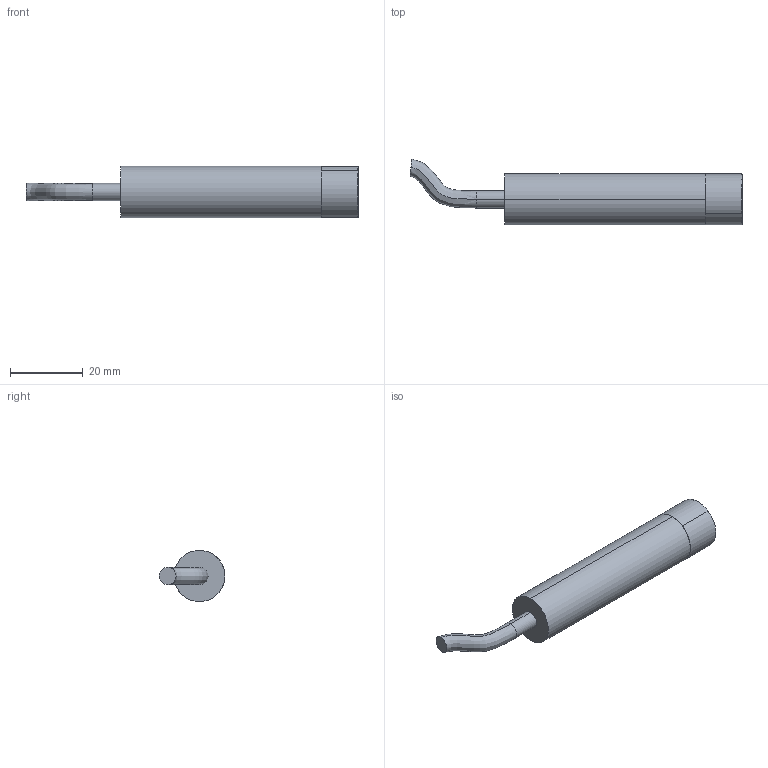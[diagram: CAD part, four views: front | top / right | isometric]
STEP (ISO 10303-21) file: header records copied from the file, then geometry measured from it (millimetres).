
FILE_DESCRIPTION (( 'STEP AP203' ), '1' );
FILE_NAME ('SENSORE LASER LT1M-XG-CG-LA-B-C.STEP', '2021-06-09T11:15:18', ( '' ), ( '' ), 'SwSTEP 2.0', 'SolidWorks 2019', '' );
FILE_SCHEMA (( 'CONFIG_CONTROL_DESIGN' ));
Length unit declared in the file: millimetre
Products named in the file (3): 26509-10 - Involucro Ø14 filettato M14x1 - PER ASSIEME_Default<A macchina>; SENSORE LASER LT1M-XG-CG-LA-B-C; 26511-10 - Testa ottica Ø14 per croce-cerchio - Anodizzato nero lucido_Default<A macchina>
Assembly tree (2 placements, depth 2):
  SENSORE LASER LT1M-XG-CG-LA-B-C
    26509-10 - Involucro Ø14 filettato M14x1 - PER ASSIEME_Default<A macchina>
    26511-10 - Testa ottica Ø14 per croce-cerchio - Anodizzato nero lucido_Default<A macchina>
Bounding box: 90.98 x 18.08 x 14 mm (x, y, z)
Volume: 5685.3 mm3; surface area: 5880 mm2
Topology: 2 solids, 2 shells, 37 faces, 72 edges, 44 vertices
Faces by surface type: cylinder 16, cone 10, plane 9, bspline 2
Entity records: 1567 total; most frequent: CARTESIAN_POINT 474, DIRECTION 194, ORIENTED_EDGE 144, AXIS2_PLACEMENT_3D 84, EDGE_CURVE 72, CIRCLE 44, EDGE_LOOP 44, VERTEX_POINT 44
